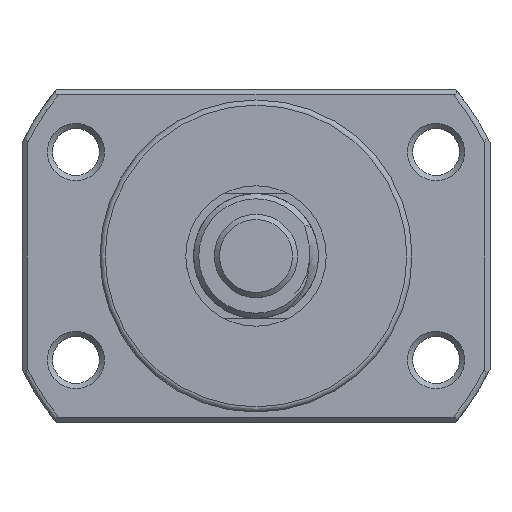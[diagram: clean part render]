
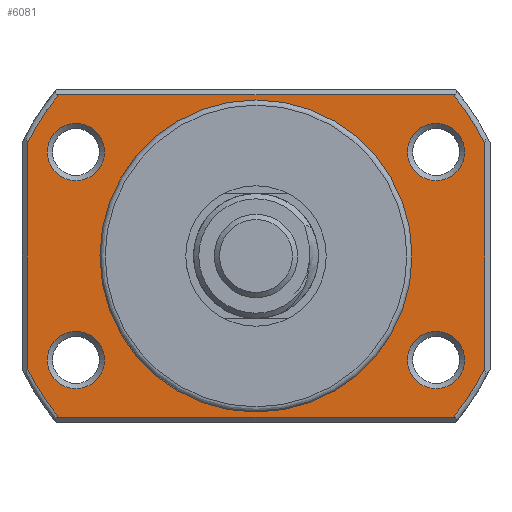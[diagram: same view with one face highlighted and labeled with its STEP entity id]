
A CAD part, left-side view. The second image highlights one B-rep face of the part: STEP entity #6081.
In plain terms, the highlighted planar face has unit normal (-1, 0, 0).
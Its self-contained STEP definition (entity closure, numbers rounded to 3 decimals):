
#23 = VERTEX_POINT ( 'NONE', #15489 ) ;
#101 = AXIS2_PLACEMENT_3D ( 'NONE', #14459, #10414, #9219 ) ;
#263 = DIRECTION ( 'NONE',  ( 0., 0., -1. ) ) ;
#734 = VERTEX_POINT ( 'NONE', #8528 ) ;
#822 = ORIENTED_EDGE ( 'NONE', *, *, #5921, .T. ) ;
#938 = CARTESIAN_POINT ( 'NONE',  ( -10.324, -22., 10.782 ) ) ;
#1277 = CIRCLE ( 'NONE', #101, 24.5 ) ;
#1298 = FACE_BOUND ( 'NONE', #14870, .T. ) ;
#1721 = DIRECTION ( 'NONE',  ( 0., 0., 1. ) ) ;
#1827 = CIRCLE ( 'NONE', #7062, 2.75 ) ;
#1833 = CARTESIAN_POINT ( 'NONE',  ( -10.324, 22., -10.782 ) ) ;
#1869 = CARTESIAN_POINT ( 'NONE',  ( -10.324, 0., 0. ) ) ;
#2216 = VERTEX_POINT ( 'NONE', #12190 ) ;
#2246 = CARTESIAN_POINT ( 'NONE',  ( -10.324, -22., 0. ) ) ;
#2344 = CARTESIAN_POINT ( 'NONE',  ( -10.324, 0., 0. ) ) ;
#2405 = VECTOR ( 'NONE', #16496, 1000. ) ;
#2555 = EDGE_LOOP ( 'NONE', ( #8916, #822, #4953, #13187, #15124, #6858, #4642, #18019 ) ) ;
#2663 = CARTESIAN_POINT ( 'NONE',  ( -10.324, 15., 0. ) ) ;
#2704 = DIRECTION ( 'NONE',  ( -1., 0., 0. ) ) ;
#2764 = VERTEX_POINT ( 'NONE', #14033 ) ;
#2905 = DIRECTION ( 'NONE',  ( 0., 0., 1. ) ) ;
#3087 = DIRECTION ( 'NONE',  ( -1., 0., 0. ) ) ;
#3128 = AXIS2_PLACEMENT_3D ( 'NONE', #12709, #3087, #1721 ) ;
#3197 = ORIENTED_EDGE ( 'NONE', *, *, #15127, .T. ) ;
#3332 = VERTEX_POINT ( 'NONE', #15901 ) ;
#3419 = CIRCLE ( 'NONE', #16293, 24.5 ) ;
#3490 = VERTEX_POINT ( 'NONE', #6671 ) ;
#3704 = DIRECTION ( 'NONE',  ( 0., 0., 1. ) ) ;
#4018 = FACE_BOUND ( 'NONE', #4180, .T. ) ;
#4142 = CARTESIAN_POINT ( 'NONE',  ( -10.324, -17.321, 10. ) ) ;
#4180 = EDGE_LOOP ( 'NONE', ( #10515 ) ) ;
#4202 = DIRECTION ( 'NONE',  ( -1., 0., 0. ) ) ;
#4207 = VERTEX_POINT ( 'NONE', #5576 ) ;
#4225 = CARTESIAN_POINT ( 'NONE',  ( -10.324, 22., 10.782 ) ) ;
#4288 = CIRCLE ( 'NONE', #3128, 24.5 ) ;
#4305 = EDGE_CURVE ( 'NONE', #3332, #13007, #5356, .T. ) ;
#4580 = DIRECTION ( 'NONE',  ( -1., 0., 0. ) ) ;
#4642 = ORIENTED_EDGE ( 'NONE', *, *, #5127, .T. ) ;
#4737 = AXIS2_PLACEMENT_3D ( 'NONE', #6582, #7961, #6670 ) ;
#4829 = VERTEX_POINT ( 'NONE', #17273 ) ;
#4953 = ORIENTED_EDGE ( 'NONE', *, *, #11878, .T. ) ;
#5127 = EDGE_CURVE ( 'NONE', #13007, #734, #14438, .T. ) ;
#5344 = CARTESIAN_POINT ( 'NONE',  ( -10.324, 17.321, -10. ) ) ;
#5356 = LINE ( 'NONE', #7834, #6215 ) ;
#5576 = CARTESIAN_POINT ( 'NONE',  ( -10.324, 0., 15. ) ) ;
#5921 = EDGE_CURVE ( 'NONE', #8147, #4829, #11169, .T. ) ;
#6081 = ADVANCED_FACE ( 'NONE', ( #1298, #4018, #16765, #9620, #6579, #15213 ), #8236, .T. ) ;
#6215 = VECTOR ( 'NONE', #8108, 1000. ) ;
#6443 = DIRECTION ( 'NONE',  ( 1., 0., 0. ) ) ;
#6579 = FACE_OUTER_BOUND ( 'NONE', #2555, .T. ) ;
#6582 = CARTESIAN_POINT ( 'NONE',  ( -10.324, -17.321, -10. ) ) ;
#6670 = DIRECTION ( 'NONE',  ( 0., 0., 1. ) ) ;
#6671 = CARTESIAN_POINT ( 'NONE',  ( -10.324, -17.321, -7.25 ) ) ;
#6858 = ORIENTED_EDGE ( 'NONE', *, *, #4305, .T. ) ;
#7062 = AXIS2_PLACEMENT_3D ( 'NONE', #4142, #9746, #15342 ) ;
#7196 = LINE ( 'NONE', #7379, #7971 ) ;
#7318 = EDGE_CURVE ( 'NONE', #2216, #2216, #1827, .T. ) ;
#7379 = CARTESIAN_POINT ( 'NONE',  ( -10.324, 22., 0. ) ) ;
#7428 = DIRECTION ( 'NONE',  ( 0., 0., 1. ) ) ;
#7834 = CARTESIAN_POINT ( 'NONE',  ( -10.324, 15., -15.5 ) ) ;
#7841 = VERTEX_POINT ( 'NONE', #4225 ) ;
#7938 = VERTEX_POINT ( 'NONE', #1833 ) ;
#7961 = DIRECTION ( 'NONE',  ( 1., 0., 0. ) ) ;
#7971 = VECTOR ( 'NONE', #263, 1000. ) ;
#7997 = LINE ( 'NONE', #2246, #11172 ) ;
#8054 = EDGE_LOOP ( 'NONE', ( #3197 ) ) ;
#8108 = DIRECTION ( 'NONE',  ( 0., -1., 0. ) ) ;
#8126 = ORIENTED_EDGE ( 'NONE', *, *, #13881, .T. ) ;
#8147 = VERTEX_POINT ( 'NONE', #8430 ) ;
#8236 = PLANE ( 'NONE',  #10883 ) ;
#8379 = AXIS2_PLACEMENT_3D ( 'NONE', #1869, #4580, #7428 ) ;
#8388 = DIRECTION ( 'NONE',  ( -1., 0., 0. ) ) ;
#8415 = EDGE_CURVE ( 'NONE', #734, #13847, #7997, .T. ) ;
#8430 = CARTESIAN_POINT ( 'NONE',  ( -10.324, -18.974, 15.5 ) ) ;
#8528 = CARTESIAN_POINT ( 'NONE',  ( -10.324, -22., -10.782 ) ) ;
#8916 = ORIENTED_EDGE ( 'NONE', *, *, #16063, .T. ) ;
#9219 = DIRECTION ( 'NONE',  ( 0., 0., 1. ) ) ;
#9269 = CIRCLE ( 'NONE', #8379, 15. ) ;
#9620 = FACE_BOUND ( 'NONE', #17932, .T. ) ;
#9724 = CIRCLE ( 'NONE', #4737, 2.75 ) ;
#9746 = DIRECTION ( 'NONE',  ( 1., 0., 0. ) ) ;
#9748 = AXIS2_PLACEMENT_3D ( 'NONE', #2344, #2704, #15164 ) ;
#9778 = CARTESIAN_POINT ( 'NONE',  ( -10.324, 0., 0. ) ) ;
#10414 = DIRECTION ( 'NONE',  ( -1., 0., 0. ) ) ;
#10515 = ORIENTED_EDGE ( 'NONE', *, *, #10776, .T. ) ;
#10729 = DIRECTION ( 'NONE',  ( 0., 0., 1. ) ) ;
#10776 = EDGE_CURVE ( 'NONE', #3490, #3490, #9724, .T. ) ;
#10883 = AXIS2_PLACEMENT_3D ( 'NONE', #2663, #4202, #15395 ) ;
#11169 = LINE ( 'NONE', #13939, #2405 ) ;
#11172 = VECTOR ( 'NONE', #16432, 1000. ) ;
#11773 = EDGE_CURVE ( 'NONE', #7841, #7938, #7196, .T. ) ;
#11878 = EDGE_CURVE ( 'NONE', #4829, #7841, #1277, .T. ) ;
#12079 = AXIS2_PLACEMENT_3D ( 'NONE', #17777, #12288, #10729 ) ;
#12190 = CARTESIAN_POINT ( 'NONE',  ( -10.324, -17.321, 12.75 ) ) ;
#12288 = DIRECTION ( 'NONE',  ( 1., 0., 0. ) ) ;
#12709 = CARTESIAN_POINT ( 'NONE',  ( -10.324, 0., 0. ) ) ;
#13007 = VERTEX_POINT ( 'NONE', #16879 ) ;
#13051 = ORIENTED_EDGE ( 'NONE', *, *, #17693, .F. ) ;
#13187 = ORIENTED_EDGE ( 'NONE', *, *, #11773, .T. ) ;
#13672 = EDGE_LOOP ( 'NONE', ( #13051 ) ) ;
#13847 = VERTEX_POINT ( 'NONE', #938 ) ;
#13881 = EDGE_CURVE ( 'NONE', #23, #23, #17344, .T. ) ;
#13939 = CARTESIAN_POINT ( 'NONE',  ( -10.324, 15., 15.5 ) ) ;
#14033 = CARTESIAN_POINT ( 'NONE',  ( -10.324, 17.321, -7.25 ) ) ;
#14425 = ORIENTED_EDGE ( 'NONE', *, *, #7318, .T. ) ;
#14438 = CIRCLE ( 'NONE', #9748, 24.5 ) ;
#14459 = CARTESIAN_POINT ( 'NONE',  ( -10.324, 0., 0. ) ) ;
#14870 = EDGE_LOOP ( 'NONE', ( #14425 ) ) ;
#15124 = ORIENTED_EDGE ( 'NONE', *, *, #16336, .T. ) ;
#15127 = EDGE_CURVE ( 'NONE', #2764, #2764, #16185, .T. ) ;
#15164 = DIRECTION ( 'NONE',  ( 0., 0., 1. ) ) ;
#15213 = FACE_BOUND ( 'NONE', #13672, .T. ) ;
#15342 = DIRECTION ( 'NONE',  ( 0., 0., 1. ) ) ;
#15395 = DIRECTION ( 'NONE',  ( 0., 0., 1. ) ) ;
#15489 = CARTESIAN_POINT ( 'NONE',  ( -10.324, 17.321, 12.75 ) ) ;
#15901 = CARTESIAN_POINT ( 'NONE',  ( -10.324, 18.974, -15.5 ) ) ;
#16063 = EDGE_CURVE ( 'NONE', #13847, #8147, #3419, .T. ) ;
#16185 = CIRCLE ( 'NONE', #17054, 2.75 ) ;
#16293 = AXIS2_PLACEMENT_3D ( 'NONE', #9778, #8388, #2905 ) ;
#16336 = EDGE_CURVE ( 'NONE', #7938, #3332, #4288, .T. ) ;
#16432 = DIRECTION ( 'NONE',  ( 0., 0., 1. ) ) ;
#16496 = DIRECTION ( 'NONE',  ( 0., 1., 0. ) ) ;
#16765 = FACE_BOUND ( 'NONE', #8054, .T. ) ;
#16879 = CARTESIAN_POINT ( 'NONE',  ( -10.324, -18.974, -15.5 ) ) ;
#17054 = AXIS2_PLACEMENT_3D ( 'NONE', #5344, #6443, #3704 ) ;
#17273 = CARTESIAN_POINT ( 'NONE',  ( -10.324, 18.974, 15.5 ) ) ;
#17344 = CIRCLE ( 'NONE', #12079, 2.75 ) ;
#17693 = EDGE_CURVE ( 'NONE', #4207, #4207, #9269, .T. ) ;
#17777 = CARTESIAN_POINT ( 'NONE',  ( -10.324, 17.321, 10. ) ) ;
#17932 = EDGE_LOOP ( 'NONE', ( #8126 ) ) ;
#18019 = ORIENTED_EDGE ( 'NONE', *, *, #8415, .T. ) ;
